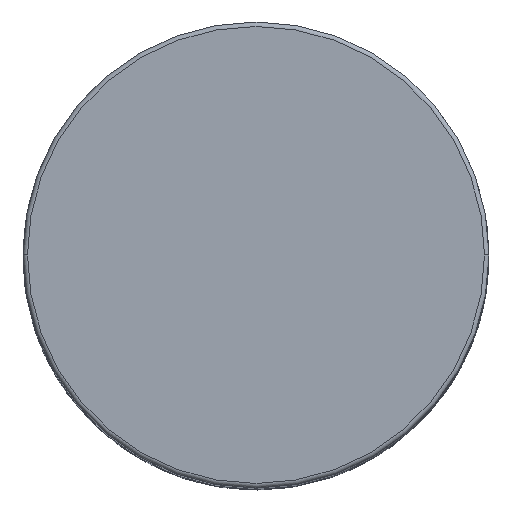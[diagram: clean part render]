
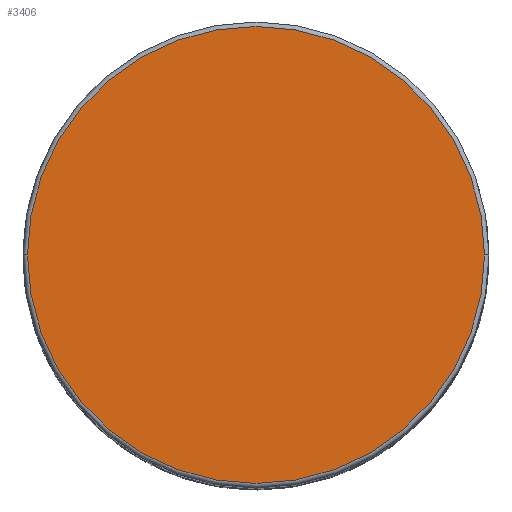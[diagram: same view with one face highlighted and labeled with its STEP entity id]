
A CAD part, top view. The second image highlights one B-rep face of the part: STEP entity #3406.
In plain terms, the highlighted planar face has unit normal (0, 0, 1).
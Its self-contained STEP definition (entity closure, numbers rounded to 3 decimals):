
#183 = PLANE ( 'NONE',  #223 ) ;
#223 = AXIS2_PLACEMENT_3D ( 'NONE', #3841, #2630, #4620 ) ;
#375 = AXIS2_PLACEMENT_3D ( 'NONE', #1597, #4807, #774 ) ;
#774 = DIRECTION ( 'NONE',  ( 1., 0., 0. ) ) ;
#940 = EDGE_CURVE ( 'NONE', #3582, #1995, #3301, .T. ) ;
#1098 = EDGE_LOOP ( 'NONE', ( #1769, #2069 ) ) ;
#1579 = CARTESIAN_POINT ( 'NONE',  ( -25.5, 0., 91. ) ) ;
#1597 = CARTESIAN_POINT ( 'NONE',  ( 0., 0., 91. ) ) ;
#1769 = ORIENTED_EDGE ( 'NONE', *, *, #940, .T. ) ;
#1899 = CIRCLE ( 'NONE', #375, 25.5 ) ;
#1995 = VERTEX_POINT ( 'NONE', #1579 ) ;
#2061 = CARTESIAN_POINT ( 'NONE',  ( 25.5, 0., 91. ) ) ;
#2069 = ORIENTED_EDGE ( 'NONE', *, *, #2996, .T. ) ;
#2630 = DIRECTION ( 'NONE',  ( 0., 0., 1. ) ) ;
#2996 = EDGE_CURVE ( 'NONE', #1995, #3582, #1899, .T. ) ;
#3062 = CARTESIAN_POINT ( 'NONE',  ( 0., 0., 91. ) ) ;
#3301 = CIRCLE ( 'NONE', #3469, 25.5 ) ;
#3406 = ADVANCED_FACE ( 'NONE', ( #4249 ), #183, .T. ) ;
#3469 = AXIS2_PLACEMENT_3D ( 'NONE', #3062, #4341, #4684 ) ;
#3582 = VERTEX_POINT ( 'NONE', #2061 ) ;
#3841 = CARTESIAN_POINT ( 'NONE',  ( 0., 0., 91. ) ) ;
#4249 = FACE_OUTER_BOUND ( 'NONE', #1098, .T. ) ;
#4341 = DIRECTION ( 'NONE',  ( 0., 0., 1. ) ) ;
#4620 = DIRECTION ( 'NONE',  ( 1., 0., 0. ) ) ;
#4684 = DIRECTION ( 'NONE',  ( 1., 0., 0. ) ) ;
#4807 = DIRECTION ( 'NONE',  ( 0., 0., 1. ) ) ;
